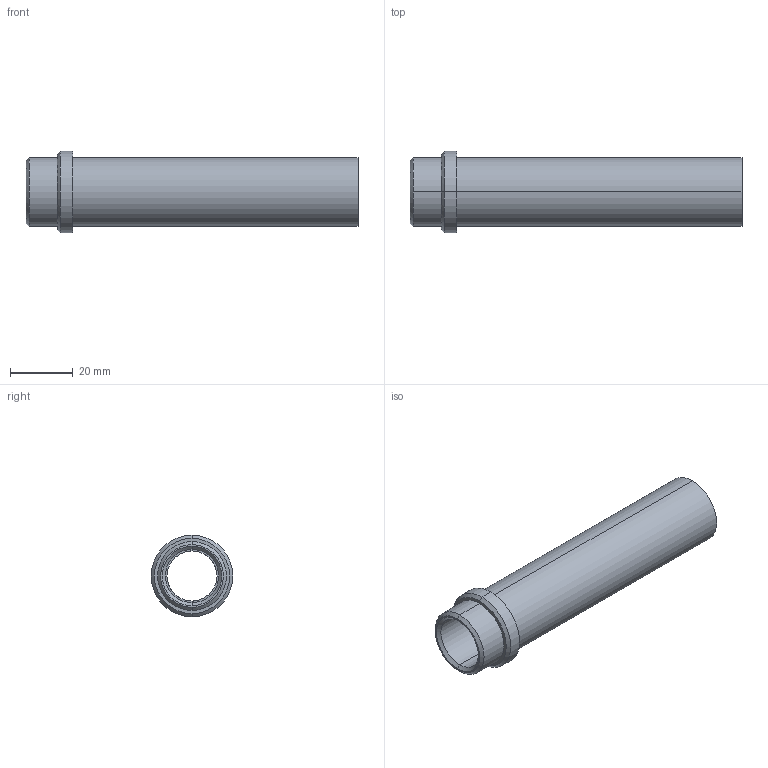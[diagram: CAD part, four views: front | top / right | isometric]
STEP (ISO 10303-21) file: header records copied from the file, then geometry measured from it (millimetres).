
FILE_DESCRIPTION(('CATIA V5 STEP Exchange'),'2;1');
FILE_NAME('C:\Users\Utente\Desktop\IO LAVORO\3D X SITO CF\X SITO\PLASTICA\358\358-16x106.stp','2021-04-08T13:13:22+00:00',('none'),('none'),'CATIA Version 5 Release 20 GA (IN-10)','CATIA V5 STEP AP203','none');
FILE_SCHEMA(('CONFIG_CONTROL_DESIGN'));
Length unit declared in the file: millimetre
Products named in the file (1): 358-16X106
Bounding box: 106 x 26 x 26 mm (x, y, z)
Volume: 17670.9 mm3; surface area: 13447.1 mm2
Topology: 1 solids, 1 shells, 23 faces, 74 edges, 56 vertices
Faces by surface type: cylinder 10, cone 6, plane 5, torus 2
Entity records: 1066 total; most frequent: CARTESIAN_POINT 378, ORIENTED_EDGE 148, DIRECTION 104, EDGE_CURVE 74, AXIS2_PLACEMENT_3D 66, VERTEX_POINT 56, CIRCLE 42, EDGE_LOOP 28
